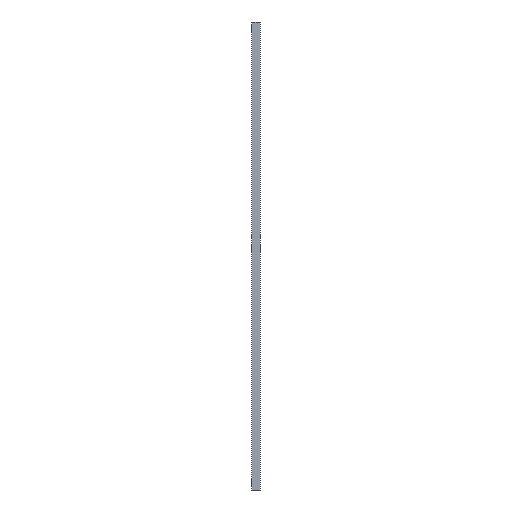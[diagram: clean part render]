
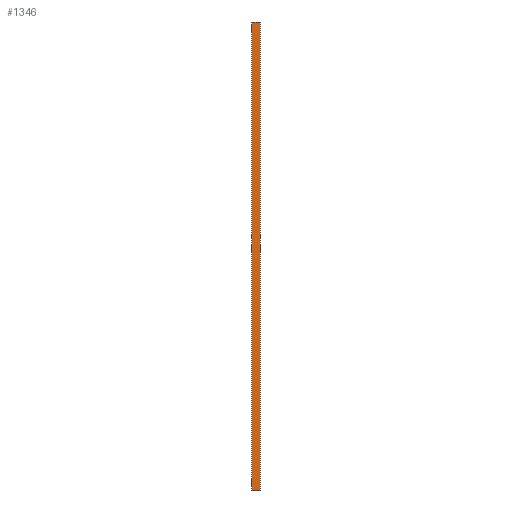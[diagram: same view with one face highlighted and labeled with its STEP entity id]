
A CAD part, left-side view. The second image highlights one B-rep face of the part: STEP entity #1346.
In plain terms, the highlighted planar face has unit normal (-1, 0, 0).
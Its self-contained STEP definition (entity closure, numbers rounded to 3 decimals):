
#31 = LINE ( 'NONE', #564, #433 ) ;
#51 = LINE ( 'NONE', #1146, #725 ) ;
#59 = VERTEX_POINT ( 'NONE', #213 ) ;
#70 = CARTESIAN_POINT ( 'NONE',  ( -8., 12.5, 679. ) ) ;
#88 = DIRECTION ( 'NONE',  ( 0., 1., 0. ) ) ;
#102 = CARTESIAN_POINT ( 'NONE',  ( -8., 3.2, 0. ) ) ;
#135 = DIRECTION ( 'NONE',  ( 0., 1., 0. ) ) ;
#137 = VERTEX_POINT ( 'NONE', #552 ) ;
#164 = DIRECTION ( 'NONE',  ( 0., 1., 0. ) ) ;
#178 = EDGE_CURVE ( 'NONE', #59, #1339, #1211, .T. ) ;
#204 = LINE ( 'NONE', #253, #610 ) ;
#213 = CARTESIAN_POINT ( 'NONE',  ( -8., 9.3, 0. ) ) ;
#220 = EDGE_CURVE ( 'NONE', #137, #657, #256, .T. ) ;
#238 = CARTESIAN_POINT ( 'NONE',  ( -8., 0., 0. ) ) ;
#239 = CARTESIAN_POINT ( 'NONE',  ( -8., 0., 0. ) ) ;
#244 = VECTOR ( 'NONE', #135, 1000. ) ;
#253 = CARTESIAN_POINT ( 'NONE',  ( -8., 0., 679. ) ) ;
#256 = LINE ( 'NONE', #584, #244 ) ;
#292 = ORIENTED_EDGE ( 'NONE', *, *, #774, .T. ) ;
#329 = EDGE_LOOP ( 'NONE', ( #455, #292, #659, #666, #1394, #708, #400, #676 ) ) ;
#332 = VERTEX_POINT ( 'NONE', #70 ) ;
#346 = FACE_OUTER_BOUND ( 'NONE', #329, .T. ) ;
#359 = DIRECTION ( 'NONE',  ( 0., 0., 1. ) ) ;
#381 = EDGE_CURVE ( 'NONE', #765, #59, #51, .T. ) ;
#400 = ORIENTED_EDGE ( 'NONE', *, *, #1329, .T. ) ;
#433 = VECTOR ( 'NONE', #553, 1000. ) ;
#434 = EDGE_CURVE ( 'NONE', #968, #1099, #748, .T. ) ;
#451 = CARTESIAN_POINT ( 'NONE',  ( -8., 0., 679. ) ) ;
#455 = ORIENTED_EDGE ( 'NONE', *, *, #381, .F. ) ;
#475 = VECTOR ( 'NONE', #536, 1000. ) ;
#536 = DIRECTION ( 'NONE',  ( 0., 0., -1. ) ) ;
#552 = CARTESIAN_POINT ( 'NONE',  ( -8., 3.2, 679. ) ) ;
#553 = DIRECTION ( 'NONE',  ( 0., 0., -1. ) ) ;
#564 = CARTESIAN_POINT ( 'NONE',  ( -8., 12.5, 679. ) ) ;
#584 = CARTESIAN_POINT ( 'NONE',  ( -8., 0., 679. ) ) ;
#596 = CARTESIAN_POINT ( 'NONE',  ( -8., 0., 0. ) ) ;
#610 = VECTOR ( 'NONE', #811, 1000. ) ;
#618 = LINE ( 'NONE', #634, #1001 ) ;
#634 = CARTESIAN_POINT ( 'NONE',  ( -8., 12.5, 679. ) ) ;
#640 = DIRECTION ( 'NONE',  ( 0., -1., 0. ) ) ;
#657 = VERTEX_POINT ( 'NONE', #1319 ) ;
#659 = ORIENTED_EDGE ( 'NONE', *, *, #434, .F. ) ;
#666 = ORIENTED_EDGE ( 'NONE', *, *, #1081, .F. ) ;
#676 = ORIENTED_EDGE ( 'NONE', *, *, #178, .F. ) ;
#708 = ORIENTED_EDGE ( 'NONE', *, *, #890, .T. ) ;
#725 = VECTOR ( 'NONE', #164, 1000. ) ;
#748 = LINE ( 'NONE', #762, #475 ) ;
#762 = CARTESIAN_POINT ( 'NONE',  ( -8., 0., 679. ) ) ;
#765 = VERTEX_POINT ( 'NONE', #102 ) ;
#774 = EDGE_CURVE ( 'NONE', #765, #1099, #1210, .T. ) ;
#811 = DIRECTION ( 'NONE',  ( 0., -1., 0. ) ) ;
#890 = EDGE_CURVE ( 'NONE', #657, #332, #618, .T. ) ;
#968 = VERTEX_POINT ( 'NONE', #989 ) ;
#989 = CARTESIAN_POINT ( 'NONE',  ( -8., 0., 679. ) ) ;
#1001 = VECTOR ( 'NONE', #88, 1000. ) ;
#1081 = EDGE_CURVE ( 'NONE', #137, #968, #204, .T. ) ;
#1099 = VERTEX_POINT ( 'NONE', #596 ) ;
#1122 = CARTESIAN_POINT ( 'NONE',  ( -8., 12.5, 0. ) ) ;
#1129 = DIRECTION ( 'NONE',  ( -1., 0., 0. ) ) ;
#1146 = CARTESIAN_POINT ( 'NONE',  ( -8., 0., 0. ) ) ;
#1159 = VECTOR ( 'NONE', #640, 1000. ) ;
#1210 = LINE ( 'NONE', #238, #1159 ) ;
#1211 = LINE ( 'NONE', #239, #1306 ) ;
#1216 = DIRECTION ( 'NONE',  ( 0., 1., 0. ) ) ;
#1306 = VECTOR ( 'NONE', #1216, 1000. ) ;
#1319 = CARTESIAN_POINT ( 'NONE',  ( -8., 9.3, 679. ) ) ;
#1329 = EDGE_CURVE ( 'NONE', #332, #1339, #31, .T. ) ;
#1334 = PLANE ( 'NONE',  #1397 ) ;
#1339 = VERTEX_POINT ( 'NONE', #1122 ) ;
#1346 = ADVANCED_FACE ( 'NONE', ( #346 ), #1334, .T. ) ;
#1394 = ORIENTED_EDGE ( 'NONE', *, *, #220, .T. ) ;
#1397 = AXIS2_PLACEMENT_3D ( 'NONE', #451, #1129, #359 ) ;
